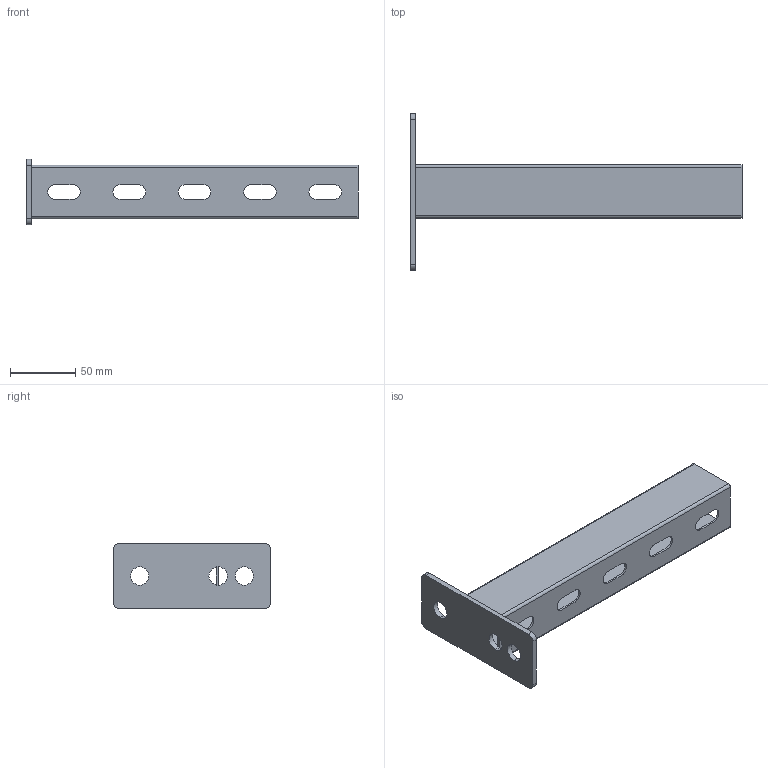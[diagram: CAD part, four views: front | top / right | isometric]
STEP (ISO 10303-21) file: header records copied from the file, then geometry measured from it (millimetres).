
FILE_DESCRIPTION (( 'STEP AP214' ), '1' );
FILE_NAME ('SP4 200 GC.STEP', '2023-06-28T13:52:07', ( '' ), ( '' ), 'SwSTEP 2.0', 'SolidWorks 2022', '' );
FILE_SCHEMA (( 'AUTOMOTIVE_DESIGN' ));
Length unit declared in the file: millimetre
Products named in the file (3): SP4 200 GC; Placa trasera SP_e4; P41 41x41x2.5_250
Assembly tree (2 placements, depth 2):
  SP4 200 GC
    P41 41x41x2.5_250
    Placa trasera SP_e4
Bounding box: 254 x 120 x 50 mm (x, y, z)
Volume: 74445.8 mm3; surface area: 84305.2 mm2
Topology: 2 solids, 2 shells, 97 faces, 231 edges, 138 vertices
Faces by surface type: plane 60, cylinder 37
Entity records: 2897 total; most frequent: DIRECTION 509, CARTESIAN_POINT 471, ORIENTED_EDGE 462, EDGE_CURVE 231, AXIS2_PLACEMENT_3D 176, VECTOR 157, LINE 157, VERTEX_POINT 138
